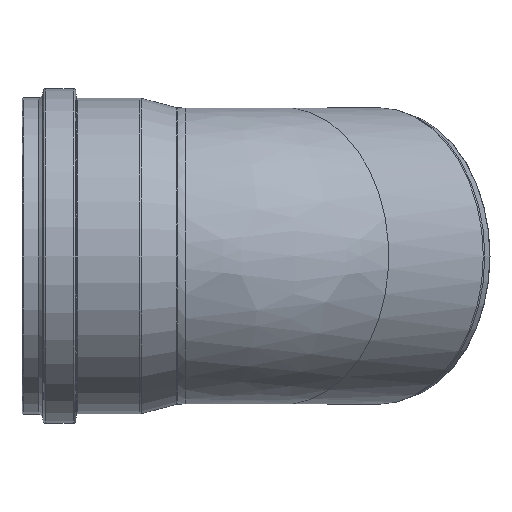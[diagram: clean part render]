
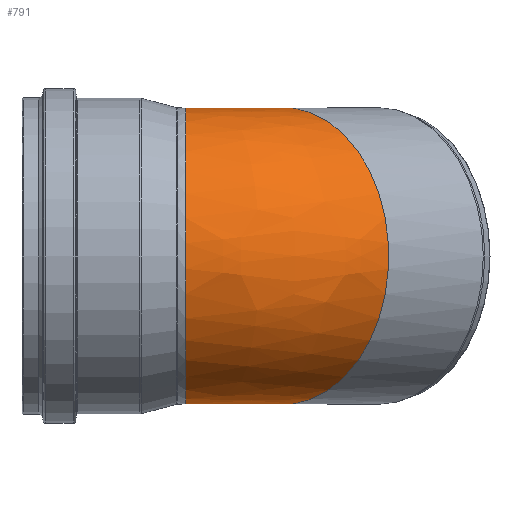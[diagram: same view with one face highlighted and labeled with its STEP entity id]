
A CAD part, left-side view. The second image highlights one B-rep face of the part: STEP entity #791.
In plain terms, the highlighted free-form (B-spline) face has degree [2, 2] with [9, 3] control points.
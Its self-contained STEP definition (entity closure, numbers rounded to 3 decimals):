
#21=(
BOUNDED_SURFACE()
B_SPLINE_SURFACE(2,2,((#1462,#1463,#1464),(#1465,#1466,#1467),(#1468,#1469,
#1470),(#1471,#1472,#1473),(#1474,#1475,#1476),(#1477,#1478,#1479),(#1480,
#1481,#1482),(#1483,#1484,#1485),(#1486,#1487,#1488)),.UNSPECIFIED.,.F.,
 .F.,.F.)
B_SPLINE_SURFACE_WITH_KNOTS((3,2,2,2,3),(3,3),(-2.691,-1.346,
0.,1.346,2.691),(-3.142,
-2.356),.UNSPECIFIED.)
GEOMETRIC_REPRESENTATION_ITEM()
RATIONAL_B_SPLINE_SURFACE(((1.,0.924,1.),(0.782,
0.723,0.782),(1.,0.924,1.),(0.782,
0.723,0.782),(1.,0.924,1.),(0.782,
0.723,0.782),(1.,0.924,1.),(0.782,
0.723,0.782),(1.,0.924,1.)))
REPRESENTATION_ITEM('')
SURFACE()
);
#27=B_SPLINE_CURVE_WITH_KNOTS('',3,(#1407,#1408,#1409,#1410,#1411,#1412,
#1413,#1414,#1415,#1416),.UNSPECIFIED.,.F.,.F.,(4,2,2,2,4),(-0.001,
0.,0.353,0.704,0.705),.UNSPECIFIED.);
#28=B_SPLINE_CURVE_WITH_KNOTS('',3,(#1422,#1423,#1424,#1425,#1426,#1427,
#1428,#1429,#1430,#1431,#1432,#1433,#1434,#1435,#1436,#1437,#1438,#1439,
#1440,#1441,#1442,#1443,#1444,#1445,#1446,#1447,#1448,#1449,#1450,#1451,
#1452,#1453,#1454,#1455,#1456,#1457,#1458),.UNSPECIFIED.,.F.,.F.,(4,3,3,
3,3,3,3,3,3,3,3,3,4),(-0.001,0.,0.075,
0.151,0.226,0.302,0.35,
0.424,0.5,0.575,0.65,
0.704,0.705),.UNSPECIFIED.);
#100=FACE_OUTER_BOUND('',#147,.T.);
#147=EDGE_LOOP('',(#547,#548,#549,#550));
#207=CIRCLE('',#881,250.25);
#208=CIRCLE('',#882,250.25);
#307=VERTEX_POINT('',#1405);
#308=VERTEX_POINT('',#1406);
#310=VERTEX_POINT('',#1419);
#311=VERTEX_POINT('',#1421);
#398=EDGE_CURVE('',#307,#308,#27,.T.);
#401=EDGE_CURVE('',#311,#310,#28,.T.);
#404=EDGE_CURVE('',#310,#307,#207,.T.);
#405=EDGE_CURVE('',#311,#308,#208,.T.);
#547=ORIENTED_EDGE('',*,*,#401,.T.);
#548=ORIENTED_EDGE('',*,*,#404,.T.);
#549=ORIENTED_EDGE('',*,*,#398,.T.);
#550=ORIENTED_EDGE('',*,*,#405,.F.);
#791=ADVANCED_FACE('',(#100),#21,.F.);
#881=AXIS2_PLACEMENT_3D('',#1489,#1064,#1065);
#882=AXIS2_PLACEMENT_3D('',#1490,#1066,#1067);
#1064=DIRECTION('center_axis',(0.,-1.,0.));
#1065=DIRECTION('ref_axis',(1.,0.,0.));
#1066=DIRECTION('center_axis',(0.707,-0.707,0.));
#1067=DIRECTION('ref_axis',(0.707,0.707,0.));
#1405=CARTESIAN_POINT('',(225.249,97.03,-109.032));
#1406=CARTESIAN_POINT('',(227.885,90.665,-109.032));
#1407=CARTESIAN_POINT('Ctrl Pts',(225.249,97.03,-109.032));
#1408=CARTESIAN_POINT('Ctrl Pts',(225.249,97.025,-109.031));
#1409=CARTESIAN_POINT('Ctrl Pts',(225.249,97.02,-109.031));
#1410=CARTESIAN_POINT('Ctrl Pts',(225.297,95.842,-108.937));
#1411=CARTESIAN_POINT('Ctrl Pts',(225.551,94.686,-108.888));
#1412=CARTESIAN_POINT('Ctrl Pts',(226.452,92.52,-108.889));
#1413=CARTESIAN_POINT('Ctrl Pts',(227.086,91.531,-108.937));
#1414=CARTESIAN_POINT('Ctrl Pts',(227.879,90.672,-109.031));
#1415=CARTESIAN_POINT('Ctrl Pts',(227.882,90.668,-109.031));
#1416=CARTESIAN_POINT('Ctrl Pts',(227.885,90.665,-109.032));
#1419=CARTESIAN_POINT('',(225.249,97.03,109.032));
#1421=CARTESIAN_POINT('',(227.885,90.665,109.032));
#1422=CARTESIAN_POINT('Ctrl Pts',(227.885,90.665,109.032));
#1423=CARTESIAN_POINT('Ctrl Pts',(227.882,90.668,109.031));
#1424=CARTESIAN_POINT('Ctrl Pts',(227.879,90.672,109.031));
#1425=CARTESIAN_POINT('Ctrl Pts',(227.876,90.675,109.031));
#1426=CARTESIAN_POINT('Ctrl Pts',(227.706,90.859,109.011));
#1427=CARTESIAN_POINT('Ctrl Pts',(227.543,91.05,108.993));
#1428=CARTESIAN_POINT('Ctrl Pts',(227.388,91.246,108.977));
#1429=CARTESIAN_POINT('Ctrl Pts',(227.233,91.441,108.961));
#1430=CARTESIAN_POINT('Ctrl Pts',(227.086,91.642,108.947));
#1431=CARTESIAN_POINT('Ctrl Pts',(226.947,91.849,108.936));
#1432=CARTESIAN_POINT('Ctrl Pts',(226.806,92.056,108.924));
#1433=CARTESIAN_POINT('Ctrl Pts',(226.674,92.269,108.914));
#1434=CARTESIAN_POINT('Ctrl Pts',(226.55,92.486,108.907));
#1435=CARTESIAN_POINT('Ctrl Pts',(226.426,92.704,108.9));
#1436=CARTESIAN_POINT('Ctrl Pts',(226.31,92.926,108.894));
#1437=CARTESIAN_POINT('Ctrl Pts',(226.202,93.153,108.892));
#1438=CARTESIAN_POINT('Ctrl Pts',(226.132,93.299,108.89));
#1439=CARTESIAN_POINT('Ctrl Pts',(226.066,93.448,108.889));
#1440=CARTESIAN_POINT('Ctrl Pts',(226.004,93.599,108.889));
#1441=CARTESIAN_POINT('Ctrl Pts',(225.909,93.826,108.889));
#1442=CARTESIAN_POINT('Ctrl Pts',(225.823,94.057,108.891));
#1443=CARTESIAN_POINT('Ctrl Pts',(225.746,94.29,108.895));
#1444=CARTESIAN_POINT('Ctrl Pts',(225.668,94.527,108.899));
#1445=CARTESIAN_POINT('Ctrl Pts',(225.599,94.767,108.906));
#1446=CARTESIAN_POINT('Ctrl Pts',(225.538,95.008,108.914));
#1447=CARTESIAN_POINT('Ctrl Pts',(225.478,95.251,108.923));
#1448=CARTESIAN_POINT('Ctrl Pts',(225.426,95.495,108.934));
#1449=CARTESIAN_POINT('Ctrl Pts',(225.384,95.741,108.946));
#1450=CARTESIAN_POINT('Ctrl Pts',(225.342,95.985,108.959));
#1451=CARTESIAN_POINT('Ctrl Pts',(225.31,96.23,108.974));
#1452=CARTESIAN_POINT('Ctrl Pts',(225.286,96.477,108.991));
#1453=CARTESIAN_POINT('Ctrl Pts',(225.269,96.656,109.003));
#1454=CARTESIAN_POINT('Ctrl Pts',(225.257,96.836,109.016));
#1455=CARTESIAN_POINT('Ctrl Pts',(225.25,97.015,109.031));
#1456=CARTESIAN_POINT('Ctrl Pts',(225.249,97.02,109.031));
#1457=CARTESIAN_POINT('Ctrl Pts',(225.249,97.025,109.031));
#1458=CARTESIAN_POINT('Ctrl Pts',(225.249,97.03,109.032));
#1462=CARTESIAN_POINT('Ctrl Pts',(225.318,97.03,-108.888));
#1463=CARTESIAN_POINT('Ctrl Pts',(225.318,93.33,-108.888));
#1464=CARTESIAN_POINT('Ctrl Pts',(227.934,90.714,-108.888));
#1465=CARTESIAN_POINT('Ctrl Pts',(138.544,97.03,-288.447));
#1466=CARTESIAN_POINT('Ctrl Pts',(138.544,57.387,-288.447));
#1467=CARTESIAN_POINT('Ctrl Pts',(166.576,29.355,-288.447));
#1468=CARTESIAN_POINT('Ctrl Pts',(-55.853,97.03,-243.938));
#1469=CARTESIAN_POINT('Ctrl Pts',(-55.853,-23.135,-243.938));
#1470=CARTESIAN_POINT('Ctrl Pts',(29.116,-108.104,-243.938));
#1471=CARTESIAN_POINT('Ctrl Pts',(-250.25,97.03,-199.428));
#1472=CARTESIAN_POINT('Ctrl Pts',(-250.25,-103.657,-199.428));
#1473=CARTESIAN_POINT('Ctrl Pts',(-108.343,-245.564,-199.428));
#1474=CARTESIAN_POINT('Ctrl Pts',(-250.25,97.03,0.));
#1475=CARTESIAN_POINT('Ctrl Pts',(-250.25,-103.657,0.));
#1476=CARTESIAN_POINT('Ctrl Pts',(-108.343,-245.564,0.));
#1477=CARTESIAN_POINT('Ctrl Pts',(-250.25,97.03,199.428));
#1478=CARTESIAN_POINT('Ctrl Pts',(-250.25,-103.657,199.428));
#1479=CARTESIAN_POINT('Ctrl Pts',(-108.343,-245.564,199.428));
#1480=CARTESIAN_POINT('Ctrl Pts',(-55.853,97.03,243.938));
#1481=CARTESIAN_POINT('Ctrl Pts',(-55.853,-23.135,243.938));
#1482=CARTESIAN_POINT('Ctrl Pts',(29.116,-108.104,243.938));
#1483=CARTESIAN_POINT('Ctrl Pts',(138.544,97.03,288.447));
#1484=CARTESIAN_POINT('Ctrl Pts',(138.544,57.387,288.447));
#1485=CARTESIAN_POINT('Ctrl Pts',(166.576,29.355,288.447));
#1486=CARTESIAN_POINT('Ctrl Pts',(225.318,97.03,108.888));
#1487=CARTESIAN_POINT('Ctrl Pts',(225.318,93.33,108.888));
#1488=CARTESIAN_POINT('Ctrl Pts',(227.934,90.714,108.888));
#1489=CARTESIAN_POINT('Origin',(0.,97.03,0.));
#1490=CARTESIAN_POINT('Origin',(68.61,-68.61,0.));
